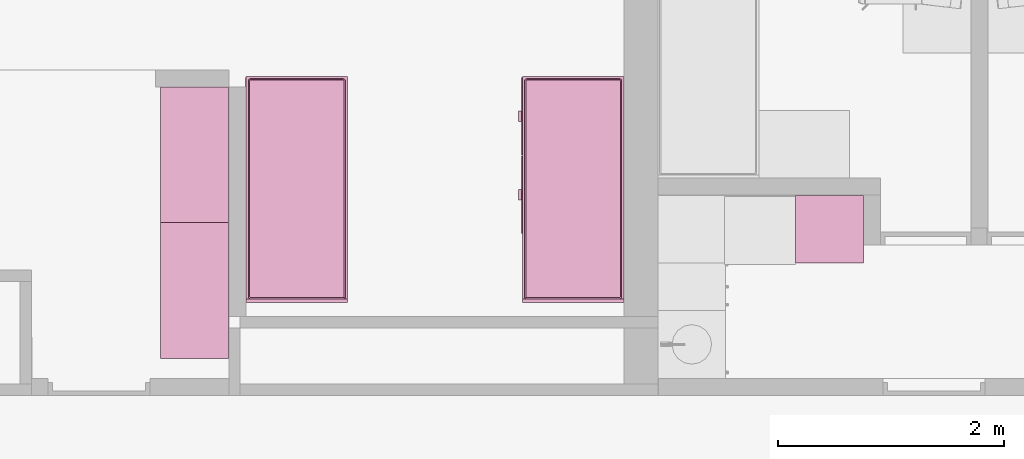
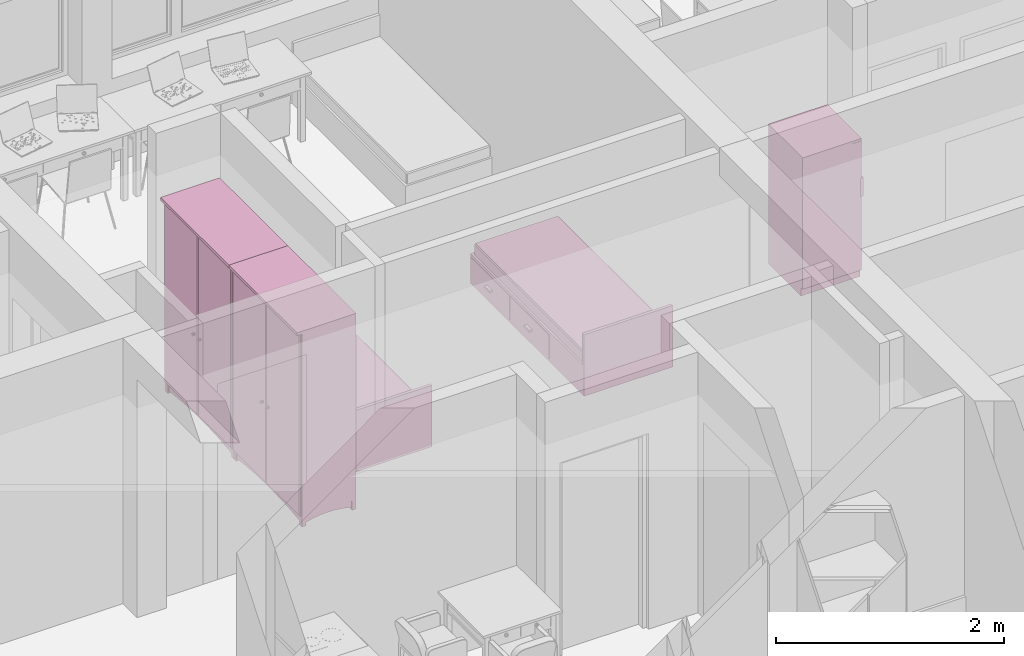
# One storey, part 68 of 165: 5 furnishings.
"""IFC2X3 building model written with IfcOpenShell, lengths in millimetres."""

from ifc_helpers import new_model, entity, si_unit, converted_unit, money_unit, direction, frame, origin_with_axes, place, context, subcontext, project, spatial, open_shell, faceted_brep, surface_model, source, transform, mapped, material, material_list, type_object, element, save


model = new_model("IFC2X3")

# Units and contexts
model_context = context("Model", 3, precision=1e-05, world=origin_with_axes(), true_north=direction((0.0, 1.0)))
body_context = subcontext(model_context, "Body", "Model", "MODEL_VIEW")
ifc_project = project(units=[si_unit("LENGTHUNIT", "METRE", prefix="MILLI"), si_unit("AREAUNIT", "SQUARE_METRE"), si_unit("VOLUMEUNIT", "CUBIC_METRE"), converted_unit("PLANEANGLEUNIT", "DEGREE", entity("IfcPlaneAngleMeasure", 0.0174532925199), si_unit("PLANEANGLEUNIT", "RADIAN"), dimensions=[0, 0, 0, 0, 0, 0, 0]), si_unit("SOLIDANGLEUNIT", "STERADIAN"), money_unit("USD"), converted_unit("TIMEUNIT", "Year", entity("IfcTimeMeasure", 31556926.0), si_unit("TIMEUNIT", "SECOND"), dimensions=[0, 0, 0, 0, 0, 0, 0]), si_unit("MASSUNIT", "GRAM"), si_unit("THERMODYNAMICTEMPERATUREUNIT", "DEGREE_CELSIUS"), si_unit("LUMINOUSINTENSITYUNIT", "LUMEN")], contexts=[model_context])

# Site, building, storey
site_placement = place(None, origin_with_axes())
site = spatial("IfcSite", under=ifc_project, at=site_placement, Name="Site", CompositionType="ELEMENT")
building_placement = place(site_placement, origin_with_axes())
building = spatial("IfcBuilding", under=site, at=building_placement, Name="Building", CompositionType="ELEMENT")
storey_placement = place(building_placement, frame((0.0, 0.0, 6300.0), z_axis=(0.0, 0.0, 1.0), x_axis=(1.0, 0.0, 0.0)))
storey = spatial("IfcBuildingStorey", under=building, at=storey_placement, Name="4KORRUS", CompositionType="ELEMENT", Elevation=6300.0)

# Furnishings
ifc_material = material(Name="Background")
ifc_material_list = material_list([ifc_material])
furnishing_element_type_1 = type_object("IfcFurnishingElementType", Name="Bed 19")
shared_shape_1 = source(origin_with_axes(), body_context, "Body", "Brep", [
    faceted_brep([(900.0, 1970.0, 0.0), (0.0, 1970.0, 0.0), (0.0, 2000.0, 0.0), (900.0, 2000.0, 0.0), (900.0, 1970.0, 660.0), (0.0, 1970.0, 660.0), (0.0, 2000.0, 660.0), (900.0, 2000.0, 660.0)], [[[0, 1, 2, 3]], [[1, 0, 4, 5]], [[2, 1, 5, 6]], [[3, 2, 6, 7]], [[0, 3, 7, 4]], [[5, 4, 7, 6]]]),
    faceted_brep([(900.0, 0.0, 0.0), (0.0, 0.0, 0.0), (0.0, 1970.0, 0.0), (900.0, 1970.0, 0.0), (900.0, 0.0, 320.0), (0.0, 0.0, 320.0), (0.0, 1970.0, 320.0), (900.0, 1970.0, 320.0)], [[[0, 1, 2, 3]], [[1, 0, 4, 5]], [[2, 1, 5, 6]], [[3, 2, 6, 7]], [[0, 3, 7, 4]], [[5, 4, 7, 6]]]),
    faceted_brep([(905.0, 10.0, 30.0), (900.0, 10.0, 30.0), (900.0, 695.0, 30.0), (905.0, 695.0, 30.0), (905.0, 10.0, 290.0), (900.0, 10.0, 290.0), (900.0, 695.0, 290.0), (905.0, 695.0, 290.0)], [[[0, 1, 2, 3]], [[1, 0, 4, 5]], [[2, 1, 5, 6]], [[3, 2, 6, 7]], [[0, 3, 7, 4]], [[5, 4, 7, 6]]]),
    faceted_brep([(935.0, 307.5, 150.0), (905.0, 307.5, 150.0), (905.0, 397.5, 150.0), (935.0, 397.5, 150.0), (935.0, 307.5, 170.0), (905.0, 307.5, 170.0), (905.0, 397.5, 170.0), (935.0, 397.5, 170.0)], [[[0, 1, 2, 3]], [[1, 0, 4, 5]], [[2, 1, 5, 6]], [[3, 2, 6, 7]], [[0, 3, 7, 4]], [[5, 4, 7, 6]]]),
    faceted_brep([(905.0, 705.0, 30.0), (900.0, 705.0, 30.0), (900.0, 1390.0, 30.0), (905.0, 1390.0, 30.0), (905.0, 705.0, 290.0), (900.0, 705.0, 290.0), (900.0, 1390.0, 290.0), (905.0, 1390.0, 290.0)], [[[0, 1, 2, 3]], [[1, 0, 4, 5]], [[2, 1, 5, 6]], [[3, 2, 6, 7]], [[0, 3, 7, 4]], [[5, 4, 7, 6]]]),
    faceted_brep([(935.0, 1002.5, 150.0), (905.0, 1002.5, 150.0), (905.0, 1092.5, 150.0), (935.0, 1092.5, 150.0), (935.0, 1002.5, 170.0), (905.0, 1002.5, 170.0), (905.0, 1092.5, 170.0), (935.0, 1092.5, 170.0)], [[[0, 1, 2, 3]], [[1, 0, 4, 5]], [[2, 1, 5, 6]], [[3, 2, 6, 7]], [[0, 3, 7, 4]], [[5, 4, 7, 6]]]),
    faceted_brep([(20.0, 40.0, 350.0), (20.0, 1950.0, 350.0), (21.522, 1957.654, 350.0), (25.858, 1964.142, 350.0), (32.346, 1968.478, 350.0), (40.0, 1970.0, 350.0), (860.0, 1970.0, 350.0), (867.654, 1968.478, 350.0), (874.142, 1964.142, 350.0), (878.478, 1957.654, 350.0), (880.0, 1950.0, 350.0), (880.0, 40.0, 350.0), (878.478, 32.346, 350.0), (874.142, 25.858, 350.0), (867.654, 21.522, 350.0), (860.0, 20.0, 350.0), (40.0, 20.0, 350.0), (32.346, 21.522, 350.0), (25.858, 25.858, 350.0), (21.522, 32.346, 350.0), (20.0, 40.0, 420.0), (20.0, 1950.0, 420.0), (21.522, 1957.654, 420.0), (25.858, 1964.142, 420.0), (32.346, 1968.478, 420.0), (40.0, 1970.0, 420.0), (860.0, 1970.0, 420.0), (867.654, 1968.478, 420.0), (874.142, 1964.142, 420.0), (878.478, 1957.654, 420.0), (880.0, 1950.0, 420.0), (880.0, 40.0, 420.0), (878.478, 32.346, 420.0), (874.142, 25.858, 420.0), (867.654, 21.522, 420.0), (860.0, 20.0, 420.0), (40.0, 20.0, 420.0), (32.346, 21.522, 420.0), (25.858, 25.858, 420.0), (21.522, 32.346, 420.0), (21.522, 40.15, 427.654), (21.522, 1949.85, 427.654), (22.956, 1957.06, 427.654), (26.955, 1963.045, 427.654), (32.94, 1967.044, 427.654), (40.15, 1968.478, 427.654), (859.85, 1968.478, 427.654), (867.06, 1967.044, 427.654), (873.045, 1963.045, 427.654), (877.044, 1957.06, 427.654), (878.478, 1949.85, 427.654), (878.478, 40.15, 427.654), (877.044, 32.94, 427.654), (873.045, 26.955, 427.654), (867.06, 22.956, 427.654), (859.85, 21.522, 427.654), (40.15, 21.522, 427.654), (32.94, 22.956, 427.654), (26.955, 26.955, 427.654), (22.956, 32.94, 427.654), (32.346, 41.216, 438.478), (32.346, 1948.784, 438.478), (33.152, 1952.836, 438.478), (34.759, 1955.241, 438.478), (37.164, 1956.848, 438.478), (41.216, 1957.654, 438.478), (858.784, 1957.654, 438.478), (862.836, 1956.848, 438.478), (865.241, 1955.241, 438.478), (866.848, 1952.836, 438.478), (867.654, 1948.784, 438.478), (867.654, 41.216, 438.478), (866.848, 37.164, 438.478), (865.241, 34.759, 438.478), (862.836, 33.152, 438.478), (858.784, 32.346, 438.478), (41.216, 32.346, 438.478), (37.164, 33.152, 438.478), (34.759, 34.759, 438.478), (33.152, 37.164, 438.478), (40.0, 41.97, 440.0), (40.0, 1948.03, 440.0), (40.327, 1949.673, 440.0), (40.0, 1950.0, 439.924), (41.97, 1950.0, 440.0), (858.03, 1950.0, 440.0), (859.673, 1949.673, 440.0), (860.0, 1950.0, 439.924), (860.0, 1948.03, 440.0), (860.0, 41.97, 440.0), (859.673, 40.327, 440.0), (860.0, 40.0, 439.924), (858.03, 40.0, 440.0), (41.97, 40.0, 440.0), (40.327, 40.327, 440.0), (40.0, 40.0, 439.924)], [[[0, 1, 2, 3, 4, 5, 6, 7, 8, 9, 10, 11, 12, 13, 14, 15, 16, 17, 18, 19]], [[1, 0, 20, 21]], [[2, 1, 21, 22]], [[3, 2, 22, 23]], [[4, 3, 23, 24]], [[5, 4, 24, 25]], [[6, 5, 25, 26]], [[7, 6, 26, 27]], [[8, 7, 27, 28]], [[9, 8, 28, 29]], [[10, 9, 29, 30]], [[11, 10, 30, 31]], [[12, 11, 31, 32]], [[13, 12, 32, 33]], [[14, 13, 33, 34]], [[15, 14, 34, 35]], [[16, 15, 35, 36]], [[17, 16, 36, 37]], [[18, 17, 37, 38]], [[19, 18, 38, 39]], [[0, 19, 39, 20]], [[21, 20, 40, 41]], [[22, 21, 41, 42]], [[23, 22, 42, 43]], [[24, 23, 43, 44]], [[25, 24, 44, 45]], [[26, 25, 45, 46]], [[27, 26, 46, 47]], [[28, 27, 47, 48]], [[29, 28, 48, 49]], [[30, 29, 49, 50]], [[31, 30, 50, 51]], [[32, 31, 51, 52]], [[33, 32, 52, 53]], [[34, 33, 53, 54]], [[35, 34, 54, 55]], [[36, 35, 55, 56]], [[37, 36, 56, 57]], [[38, 37, 57, 58]], [[39, 38, 58, 59]], [[20, 39, 59, 40]], [[41, 40, 60, 61]], [[42, 41, 61, 62]], [[43, 42, 62, 63]], [[44, 43, 63, 64]], [[45, 44, 64, 65]], [[46, 45, 65, 66]], [[47, 46, 66, 67]], [[48, 47, 67, 68]], [[49, 48, 68, 69]], [[50, 49, 69, 70]], [[51, 50, 70, 71]], [[52, 51, 71, 72]], [[53, 52, 72, 73]], [[54, 53, 73, 74]], [[55, 54, 74, 75]], [[56, 55, 75, 76]], [[57, 56, 76, 77]], [[58, 57, 77, 78]], [[59, 58, 78, 79]], [[40, 59, 79, 60]], [[61, 60, 80, 81]], [[62, 61, 81, 82, 83]], [[63, 62, 83]], [[64, 63, 83]], [[65, 64, 83, 82, 84]], [[66, 65, 84, 85]], [[67, 66, 85, 86, 87]], [[68, 67, 87]], [[69, 68, 87]], [[70, 69, 87, 86, 88]], [[71, 70, 88, 89]], [[72, 71, 89, 90, 91]], [[73, 72, 91]], [[74, 73, 91]], [[75, 74, 91, 90, 92]], [[76, 75, 92, 93]], [[77, 76, 93, 94, 95]], [[78, 77, 95]], [[79, 78, 95]], [[60, 79, 95, 94, 80]], [[81, 80, 94, 93, 92, 90, 89, 88, 86, 85, 84, 82]]]),
    faceted_brep([(20.0, 40.0, 350.0), (21.522, 32.346, 350.0), (25.858, 25.858, 350.0), (32.346, 21.522, 350.0), (40.0, 20.0, 350.0), (860.0, 20.0, 350.0), (867.654, 21.522, 350.0), (874.142, 25.858, 350.0), (878.478, 32.346, 350.0), (880.0, 40.0, 350.0), (880.0, 1950.0, 350.0), (878.478, 1957.654, 350.0), (874.142, 1964.142, 350.0), (867.654, 1968.478, 350.0), (860.0, 1970.0, 350.0), (40.0, 1970.0, 350.0), (32.346, 1968.478, 350.0), (25.858, 1964.142, 350.0), (21.522, 1957.654, 350.0), (20.0, 1950.0, 350.0), (20.0, 40.0, 320.0), (21.522, 32.346, 320.0), (25.858, 25.858, 320.0), (32.346, 21.522, 320.0), (40.0, 20.0, 320.0), (860.0, 20.0, 320.0), (867.654, 21.522, 320.0), (874.142, 25.858, 320.0), (878.478, 32.346, 320.0), (880.0, 40.0, 320.0), (880.0, 1950.0, 320.0), (878.478, 1957.654, 320.0), (874.142, 1964.142, 320.0), (867.654, 1968.478, 320.0), (860.0, 1970.0, 320.0), (40.0, 1970.0, 320.0), (32.346, 1968.478, 320.0), (25.858, 1964.142, 320.0), (21.522, 1957.654, 320.0), (20.0, 1950.0, 320.0)], [[[0, 1, 2, 3, 4, 5, 6, 7, 8, 9, 10, 11, 12, 13, 14, 15, 16, 17, 18, 19]], [[0, 20, 21, 1]], [[1, 21, 22, 2]], [[2, 22, 23, 3]], [[3, 23, 24, 4]], [[4, 24, 25, 5]], [[5, 25, 26, 6]], [[6, 26, 27, 7]], [[7, 27, 28, 8]], [[8, 28, 29, 9]], [[9, 29, 30, 10]], [[10, 30, 31, 11]], [[11, 31, 32, 12]], [[12, 32, 33, 13]], [[13, 33, 34, 14]], [[14, 34, 35, 15]], [[15, 35, 36, 16]], [[16, 36, 37, 17]], [[17, 37, 38, 18]], [[18, 38, 39, 19]], [[19, 39, 20, 0]], [[20, 39, 38, 37, 36, 35, 34, 33, 32, 31, 30, 29, 28, 27, 26, 25, 24, 23, 22, 21]]]),
])
for number, where, z_axis, x_axis, name in (
    (1, (-44734.1327748, -8315.53448954, 0.0), (0.0, 0.0, 1.0), (-1.0, 0.0, 0.0), "FU - 013"),
    (2, (-42290.2967033, -8315.53448954, 0.0), (0.0, 0.0, 1.0), (-1.0, 0.0, 0.0), "FU - 013"),
):
    element("IfcFurnishingElement", number, at=place(storey_placement, frame(where, z_axis=z_axis, x_axis=x_axis)), inside=storey, type_object=furnishing_element_type_1, material=ifc_material_list, Name=name, context=body_context, shape_type="MappedRepresentation", body=[
        mapped(shared_shape_1, transform((0.0, 0.0, 0.0))),
    ])
furnishing_element_type_2 = type_object("IfcFurnishingElementType", Name="Cupboard 19")
shared_shape_2 = source(origin_with_axes(), body_context, "Body", "Brep", [
    faceted_brep([(1180.0, 600.0, 120.0), (1180.0, 600.0, 2050.0), (1180.0, 580.0, 2050.0), (1180.0, 580.0, 120.0), (20.0, 600.0, 120.0), (20.0, 600.0, 2050.0), (20.0, 580.0, 2050.0), (20.0, 580.0, 120.0)], [[[0, 1, 2, 3]], [[4, 5, 1, 0]], [[1, 5, 6, 2]], [[3, 2, 6, 7]], [[0, 3, 7, 4]], [[7, 6, 5, 4]]]),
    faceted_brep([(0.0, 50.0, 100.0), (0.0, 600.0, 100.0), (20.0, 600.0, 100.0), (20.0, 50.0, 100.0), (0.0, 50.0, 2070.0), (0.0, 600.0, 2070.0), (20.0, 600.0, 2070.0), (20.0, 50.0, 2070.0)], [[[0, 1, 2, 3]], [[0, 4, 5, 1]], [[1, 5, 6, 2]], [[2, 6, 7, 3]], [[3, 7, 4, 0]], [[7, 6, 5, 4]]]),
    faceted_brep([(1180.0, 50.0, 100.0), (1180.0, 600.0, 100.0), (1200.0, 600.0, 100.0), (1200.0, 50.0, 100.0), (1180.0, 50.0, 2070.0), (1180.0, 600.0, 2070.0), (1200.0, 600.0, 2070.0), (1200.0, 50.0, 2070.0)], [[[0, 1, 2, 3]], [[0, 4, 5, 1]], [[1, 5, 6, 2]], [[2, 6, 7, 3]], [[3, 7, 4, 0]], [[7, 6, 5, 4]]]),
    faceted_brep([(20.0, 50.0, 100.0), (20.0, 600.0, 100.0), (1180.0, 600.0, 100.0), (1180.0, 50.0, 100.0), (20.0, 50.0, 120.0), (20.0, 600.0, 120.0), (1180.0, 600.0, 120.0), (1180.0, 50.0, 120.0)], [[[0, 1, 2, 3]], [[0, 4, 5, 1]], [[1, 5, 6, 2]], [[2, 6, 7, 3]], [[3, 7, 4, 0]], [[7, 6, 5, 4]]]),
    faceted_brep([(20.0, 50.0, 2050.0), (20.0, 600.0, 2050.0), (1180.0, 600.0, 2050.0), (1180.0, 50.0, 2050.0), (20.0, 50.0, 2070.0), (20.0, 600.0, 2070.0), (1180.0, 600.0, 2070.0), (1180.0, 50.0, 2070.0)], [[[0, 1, 2, 3]], [[0, 4, 5, 1]], [[1, 5, 6, 2]], [[2, 6, 7, 3]], [[3, 7, 4, 0]], [[7, 6, 5, 4]]]),
    faceted_brep([(0.0, 600.0, 2070.0), (0.0, 0.0, 2070.0), (0.0, 0.0, 2100.0), (0.0, 600.0, 2100.0), (1200.0, 600.0, 2070.0), (1200.0, 0.0, 2070.0), (1200.0, 0.0, 2100.0), (1200.0, 600.0, 2100.0)], [[[0, 1, 2, 3]], [[0, 4, 5, 1]], [[1, 5, 6, 2]], [[3, 2, 6, 7]], [[4, 0, 3, 7]], [[5, 4, 7, 6]]]),
    faceted_brep([(1160.0, 590.0, 25.0), (1160.0, 570.0, 25.0), (880.627, 570.0, 53.115), (880.627, 590.0, 53.115), (1160.0, 590.0, 100.0), (1160.0, 570.0, 100.0), (40.0, 570.0, 100.0), (40.0, 570.0, 25.0), (319.373, 570.0, 53.115), (600.0, 570.0, 62.5), (600.0, 590.0, 62.5), (319.373, 590.0, 53.115), (40.0, 590.0, 25.0), (40.0, 590.0, 100.0)], [[[0, 1, 2, 3]], [[4, 5, 1, 0]], [[1, 5, 6, 7, 8, 9, 2]], [[3, 2, 9, 10]], [[0, 3, 10, 11, 12, 13, 4]], [[13, 6, 5, 4]], [[12, 7, 6, 13]], [[11, 8, 7, 12]], [[10, 9, 8, 11]]]),
    faceted_brep([(1160.0, 80.0, 25.0), (1160.0, 60.0, 25.0), (880.627, 60.0, 53.115), (880.627, 80.0, 53.115), (1160.0, 80.0, 100.0), (1160.0, 60.0, 100.0), (40.0, 60.0, 100.0), (40.0, 60.0, 25.0), (319.373, 60.0, 53.115), (600.0, 60.0, 62.5), (600.0, 80.0, 62.5), (319.373, 80.0, 53.115), (40.0, 80.0, 25.0), (40.0, 80.0, 100.0)], [[[0, 1, 2, 3]], [[4, 5, 1, 0]], [[1, 5, 6, 7, 8, 9, 2]], [[3, 2, 9, 10]], [[0, 3, 10, 11, 12, 13, 4]], [[13, 6, 5, 4]], [[12, 7, 6, 13]], [[11, 8, 7, 12]], [[10, 9, 8, 11]]]),
    faceted_brep([(1190.0, 90.0, 25.0), (1170.0, 90.0, 25.0), (1170.0, 141.266, 38.072), (1190.0, 141.266, 38.072), (1190.0, 90.0, 100.0), (1170.0, 90.0, 100.0), (1170.0, 560.0, 100.0), (1170.0, 560.0, 25.0), (1170.0, 508.734, 38.072), (1170.0, 456.752, 47.92), (1170.0, 404.257, 54.508), (1170.0, 351.453, 57.808), (1170.0, 298.547, 57.808), (1170.0, 245.743, 54.508), (1170.0, 193.248, 47.92), (1190.0, 193.248, 47.92), (1190.0, 245.743, 54.508), (1190.0, 298.547, 57.808), (1190.0, 351.453, 57.808), (1190.0, 404.257, 54.508), (1190.0, 456.752, 47.92), (1190.0, 508.734, 38.072), (1190.0, 560.0, 25.0), (1190.0, 560.0, 100.0)], [[[0, 1, 2, 3]], [[4, 5, 1, 0]], [[1, 5, 6, 7, 8, 9, 10, 11, 12, 13, 14, 2]], [[3, 2, 14, 15]], [[0, 3, 15, 16, 17, 18, 19, 20, 21, 22, 23, 4]], [[23, 6, 5, 4]], [[22, 7, 6, 23]], [[21, 8, 7, 22]], [[20, 9, 8, 21]], [[19, 10, 9, 20]], [[18, 11, 10, 19]], [[17, 12, 11, 18]], [[16, 13, 12, 17]], [[15, 14, 13, 16]]]),
    faceted_brep([(30.0, 90.0, 25.0), (10.0, 90.0, 25.0), (10.0, 141.266, 38.072), (30.0, 141.266, 38.072), (30.0, 90.0, 100.0), (10.0, 90.0, 100.0), (10.0, 560.0, 100.0), (10.0, 560.0, 25.0), (10.0, 508.734, 38.072), (10.0, 456.752, 47.92), (10.0, 404.257, 54.508), (10.0, 351.453, 57.808), (10.0, 298.547, 57.808), (10.0, 245.743, 54.508), (10.0, 193.248, 47.92), (30.0, 193.248, 47.92), (30.0, 245.743, 54.508), (30.0, 298.547, 57.808), (30.0, 351.453, 57.808), (30.0, 404.257, 54.508), (30.0, 456.752, 47.92), (30.0, 508.734, 38.072), (30.0, 560.0, 25.0), (30.0, 560.0, 100.0)], [[[0, 1, 2, 3]], [[4, 5, 1, 0]], [[1, 5, 6, 7, 8, 9, 10, 11, 12, 13, 14, 2]], [[3, 2, 14, 15]], [[0, 3, 15, 16, 17, 18, 19, 20, 21, 22, 23, 4]], [[23, 6, 5, 4]], [[22, 7, 6, 23]], [[21, 8, 7, 22]], [[20, 9, 8, 21]], [[19, 10, 9, 20]], [[18, 11, 10, 19]], [[17, 12, 11, 18]], [[16, 13, 12, 17]], [[15, 14, 13, 16]]]),
    faceted_brep([(1160.0, 560.0, 0.0), (1160.0, 560.0, 100.0), (1160.0, 600.0, 100.0), (1160.0, 600.0, 0.0), (1200.0, 560.0, 0.0), (1200.0, 560.0, 100.0), (1200.0, 600.0, 100.0), (1200.0, 600.0, 0.0)], [[[0, 1, 2, 3]], [[4, 5, 1, 0]], [[1, 5, 6, 2]], [[3, 2, 6, 7]], [[0, 3, 7, 4]], [[7, 6, 5, 4]]]),
    faceted_brep([(0.0, 560.0, 0.0), (0.0, 560.0, 100.0), (0.0, 600.0, 100.0), (0.0, 600.0, 0.0), (40.0, 560.0, 0.0), (40.0, 560.0, 100.0), (40.0, 600.0, 100.0), (40.0, 600.0, 0.0)], [[[0, 1, 2, 3]], [[4, 5, 1, 0]], [[1, 5, 6, 2]], [[3, 2, 6, 7]], [[0, 3, 7, 4]], [[7, 6, 5, 4]]]),
    faceted_brep([(1160.0, 50.0, 0.0), (1160.0, 50.0, 100.0), (1160.0, 90.0, 100.0), (1160.0, 90.0, 0.0), (1200.0, 50.0, 0.0), (1200.0, 50.0, 100.0), (1200.0, 90.0, 100.0), (1200.0, 90.0, 0.0)], [[[0, 1, 2, 3]], [[4, 5, 1, 0]], [[1, 5, 6, 2]], [[3, 2, 6, 7]], [[0, 3, 7, 4]], [[7, 6, 5, 4]]]),
    faceted_brep([(0.0, 50.0, 0.0), (0.0, 50.0, 100.0), (0.0, 90.0, 100.0), (0.0, 90.0, 0.0), (40.0, 50.0, 0.0), (40.0, 50.0, 100.0), (40.0, 90.0, 100.0), (40.0, 90.0, 0.0)], [[[0, 1, 2, 3]], [[4, 5, 1, 0]], [[1, 5, 6, 2]], [[3, 2, 6, 7]], [[0, 3, 7, 4]], [[7, 6, 5, 4]]]),
    faceted_brep([(1180.0, 580.0, 587.5), (1180.0, 580.0, 607.5), (1180.0, 50.0, 607.5), (1180.0, 50.0, 587.5), (20.0, 580.0, 587.5), (20.0, 580.0, 607.5), (20.0, 50.0, 607.5), (20.0, 50.0, 587.5)], [[[0, 1, 2, 3]], [[4, 5, 1, 0]], [[1, 5, 6, 2]], [[3, 2, 6, 7]], [[0, 3, 7, 4]], [[7, 6, 5, 4]]]),
    faceted_brep([(1180.0, 580.0, 1075.0), (1180.0, 580.0, 1095.0), (1180.0, 50.0, 1095.0), (1180.0, 50.0, 1075.0), (20.0, 580.0, 1075.0), (20.0, 580.0, 1095.0), (20.0, 50.0, 1095.0), (20.0, 50.0, 1075.0)], [[[0, 1, 2, 3]], [[4, 5, 1, 0]], [[1, 5, 6, 2]], [[3, 2, 6, 7]], [[0, 3, 7, 4]], [[7, 6, 5, 4]]]),
    faceted_brep([(1180.0, 580.0, 1562.5), (1180.0, 580.0, 1582.5), (1180.0, 50.0, 1582.5), (1180.0, 50.0, 1562.5), (20.0, 580.0, 1562.5), (20.0, 580.0, 1582.5), (20.0, 50.0, 1582.5), (20.0, 50.0, 1562.5)], [[[0, 1, 2, 3]], [[4, 5, 1, 0]], [[1, 5, 6, 2]], [[3, 2, 6, 7]], [[0, 3, 7, 4]], [[7, 6, 5, 4]]]),
    faceted_brep([(1189.5, 50.0, 110.5), (600.5, 50.0, 110.5), (600.5, 50.0, 2059.5), (1189.5, 50.0, 2059.5), (1189.5, 40.0, 110.5), (600.5, 40.0, 110.5), (600.5, 40.0, 2059.5), (1189.5, 40.0, 2059.5), (1179.5, 30.0, 120.5), (610.5, 30.0, 120.5), (610.5, 30.0, 2049.5), (1179.5, 30.0, 2049.5)], [[[0, 1, 2, 3]], [[0, 4, 5, 1]], [[1, 5, 6, 2]], [[2, 6, 7, 3]], [[3, 7, 4, 0]], [[4, 8, 9, 5]], [[5, 9, 10, 6]], [[6, 10, 11, 7]], [[7, 11, 8, 4]], [[10, 9, 8, 11]]]),
    faceted_brep([(599.5, 50.0, 110.5), (10.5, 50.0, 110.5), (10.5, 50.0, 2059.5), (599.5, 50.0, 2059.5), (599.5, 40.0, 110.5), (10.5, 40.0, 110.5), (10.5, 40.0, 2059.5), (599.5, 40.0, 2059.5), (589.5, 30.0, 120.5), (20.5, 30.0, 120.5), (20.5, 30.0, 2049.5), (589.5, 30.0, 2049.5)], [[[0, 1, 2, 3]], [[0, 4, 5, 1]], [[1, 5, 6, 2]], [[2, 6, 7, 3]], [[3, 7, 4, 0]], [[4, 8, 9, 5]], [[5, 9, 10, 6]], [[6, 10, 11, 7]], [[7, 11, 8, 4]], [[10, 9, 8, 11]]]),
    faceted_brep([(539.608, 30.0, 954.0), (538.0, 30.0, 960.0), (539.608, 30.0, 966.0), (544.0, 30.0, 970.392), (550.0, 30.0, 972.0), (556.0, 30.0, 970.392), (560.392, 30.0, 966.0), (562.0, 30.0, 960.0), (560.392, 30.0, 954.0), (556.0, 30.0, 949.608), (550.0, 30.0, 948.0), (544.0, 30.0, 949.608), (539.608, 5.0, 954.0), (538.0, 5.0, 960.0), (539.608, 5.0, 966.0), (544.0, 5.0, 970.392), (550.0, 5.0, 972.0), (556.0, 5.0, 970.392), (560.392, 5.0, 966.0), (562.0, 5.0, 960.0), (560.392, 5.0, 954.0), (556.0, 5.0, 949.608), (550.0, 5.0, 948.0), (544.0, 5.0, 949.608)], [[[0, 1, 2, 3, 4, 5, 6, 7, 8, 9, 10, 11]], [[0, 12, 13, 1]], [[1, 13, 14, 2]], [[2, 14, 15, 3]], [[3, 15, 16, 4]], [[4, 16, 17, 5]], [[5, 17, 18, 6]], [[6, 18, 19, 7]], [[7, 19, 20, 8]], [[8, 20, 21, 9]], [[9, 21, 22, 10]], [[10, 22, 23, 11]], [[11, 23, 12, 0]], [[12, 23, 22, 21, 20, 19, 18, 17, 16, 15, 14, 13]]]),
    faceted_brep([(660.392, 30.0, 954.0), (656.0, 30.0, 949.608), (650.0, 30.0, 948.0), (644.0, 30.0, 949.608), (639.608, 30.0, 954.0), (638.0, 30.0, 960.0), (639.608, 30.0, 966.0), (644.0, 30.0, 970.392), (650.0, 30.0, 972.0), (656.0, 30.0, 970.392), (660.392, 30.0, 966.0), (662.0, 30.0, 960.0), (660.392, 5.0, 954.0), (656.0, 5.0, 949.608), (650.0, 5.0, 948.0), (644.0, 5.0, 949.608), (639.608, 5.0, 954.0), (638.0, 5.0, 960.0), (639.608, 5.0, 966.0), (644.0, 5.0, 970.392), (650.0, 5.0, 972.0), (656.0, 5.0, 970.392), (660.392, 5.0, 966.0), (662.0, 5.0, 960.0)], [[[0, 1, 2, 3, 4, 5, 6, 7, 8, 9, 10, 11]], [[1, 0, 12, 13]], [[2, 1, 13, 14]], [[3, 2, 14, 15]], [[4, 3, 15, 16]], [[5, 4, 16, 17]], [[6, 5, 17, 18]], [[7, 6, 18, 19]], [[8, 7, 19, 20]], [[9, 8, 20, 21]], [[10, 9, 21, 22]], [[11, 10, 22, 23]], [[0, 11, 23, 12]], [[12, 23, 22, 21, 20, 19, 18, 17, 16, 15, 14, 13]]]),
])
for number, where, z_axis, x_axis, name in (
    (3, (-46389.9526939, -9609.87086674, 0.0), (0.0, 0.0, 1.0), (0.0, -1.0, 0.0), "FU - 014"),
    (4, (-46389.9526939, -8409.87086674, 0.0), (0.0, 0.0, 1.0), (0.0, -1.0, 0.0), "FU - 014"),
):
    element("IfcFurnishingElement", number, at=place(storey_placement, frame(where, z_axis=z_axis, x_axis=x_axis)), inside=storey, type_object=furnishing_element_type_2, material=ifc_material_list, Name=name, context=body_context, shape_type="MappedRepresentation", body=[
        mapped(shared_shape_2, transform((0.0, 0.0, 0.0))),
    ])
furnishing_element_type_3 = type_object("IfcFurnishingElementType", Name="Refrigerator 19")
shared_shape_3 = source(origin_with_axes(), body_context, "Body", "SurfaceModel", [
    faceted_brep([(0.0, 0.0, 1475.0), (600.0, 0.0, 1475.0), (600.0, 0.0, 1500.0), (0.0, 0.0, 1500.0), (0.0, 600.0, 1475.0), (600.0, 600.0, 1475.0), (600.0, 600.0, 1500.0), (0.0, 600.0, 1500.0)], [[[0, 1, 2, 3]], [[0, 4, 5, 1]], [[1, 5, 6, 2]], [[3, 2, 6, 7]], [[4, 0, 3, 7]], [[5, 4, 7, 6]]]),
    faceted_brep([(0.0, 65.0, 0.0), (600.0, 65.0, 0.0), (600.0, 65.0, 1475.0), (0.0, 65.0, 1475.0), (0.0, 600.0, 0.0), (600.0, 600.0, 0.0), (600.0, 600.0, 1475.0), (0.0, 600.0, 1475.0)], [[[0, 1, 2, 3]], [[0, 4, 5, 1]], [[1, 5, 6, 2]], [[3, 2, 6, 7]], [[4, 0, 3, 7]], [[5, 4, 7, 6]]]),
    faceted_brep([(0.0, 30.0, 0.0), (600.0, 30.0, 0.0), (600.0, 30.0, 90.0), (0.0, 30.0, 90.0), (0.0, 60.0, 0.0), (600.0, 60.0, 0.0), (600.0, 60.0, 90.0), (0.0, 60.0, 90.0)], [[[0, 1, 2, 3]], [[0, 4, 5, 1]], [[1, 5, 6, 2]], [[3, 2, 6, 7]], [[4, 0, 3, 7]], [[5, 4, 7, 6]]]),
    faceted_brep([(0.0, 60.0, 90.0), (600.0, 60.0, 90.0), (600.0, 0.0, 90.0), (0.0, 0.0, 90.0), (0.0, 60.0, 1474.5), (600.0, 60.0, 1474.5), (600.0, 0.0, 1474.5), (0.0, 0.0, 1474.5)], [[[0, 1, 2, 3]], [[0, 4, 5, 1]], [[1, 5, 6, 2]], [[3, 2, 6, 7]], [[4, 0, 3, 7]], [[5, 4, 7, 6]]]),
    surface_model("IfcShellBasedSurfaceModel", [(600.0, -30.0, 900.0), (600.0, -30.0, 1100.0), (600.0, 0.0, 1100.0), (600.0, 0.0, 900.0)], [open_shell([[[0, 1, 2, 3]]])]),
    surface_model("IfcShellBasedSurfaceModel", [(600.0, -30.0, 900.0), (600.0, -30.0, 1100.0), (570.0, -30.0, 1100.0), (570.0, -30.0, 900.0)], [open_shell([[[0, 1, 2, 3]]])]),
])
furnishing_placement = place(storey_placement, frame((-40772.0319183, -9967.37850445, 0.0), z_axis=(0.0, 0.0, 1.0), x_axis=(1.0, 0.0, 0.0)))
element("IfcFurnishingElement", 5, at=furnishing_placement, inside=storey, type_object=furnishing_element_type_3, material=ifc_material_list, Name="FU - 007", context=body_context, shape_type="MappedRepresentation", body=[
    mapped(shared_shape_3, transform((0.0, 0.0, 0.0))),
])

save(model, "model.ifc")
